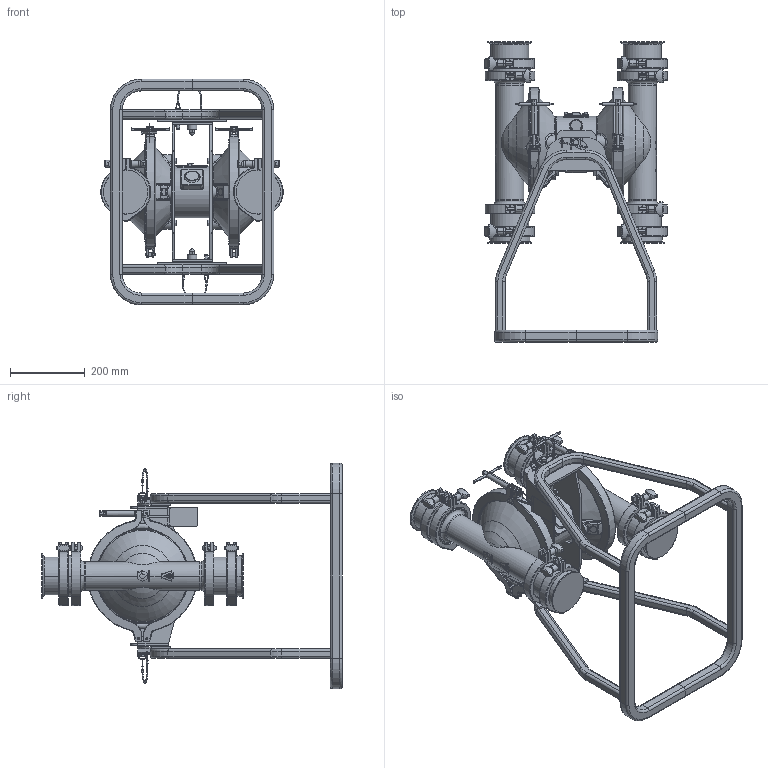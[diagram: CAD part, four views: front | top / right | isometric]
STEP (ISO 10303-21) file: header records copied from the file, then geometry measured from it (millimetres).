
FILE_DESCRIPTION((''),'2;1');
FILE_NAME('SFPAF1-EN-L_PRT','2020-01-01T12:16:30',('qusrh3'),(''),'CREO PARAMETRIC BY PTC INC, 2019030','CREO PARAMETRIC BY PTC INC, 2019030','');
FILE_SCHEMA(('CONFIG_CONTROL_DESIGN'));
Products named in the file (1): SFPAF1-EN-L_PRT
Bounding box: 488.77 x 805.69 x 605.28 mm (x, y, z)
Surface area: 2038640.3 mm2 (no closed solid volume)
Topology: 0 solids, 207 shells, 2392 faces, 6886 edges, 4609 vertices
Faces by surface type: cylinder 800, plane 627, torus 365, bspline 314, cone 212, sphere 66, revolution 8
Entity records: 96980 total; most frequent: CARTESIAN_POINT 38970, ORIENTED_EDGE 11760, DIRECTION 11515, EDGE_CURVE 6874, VERTEX_POINT 4609, AXIS2_PLACEMENT_3D 4588, CIRCLE 2518, EDGE_LOOP 2392
